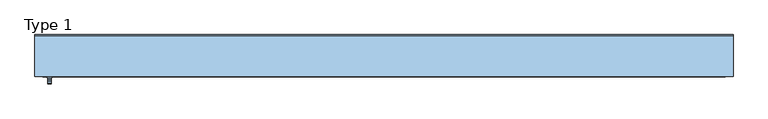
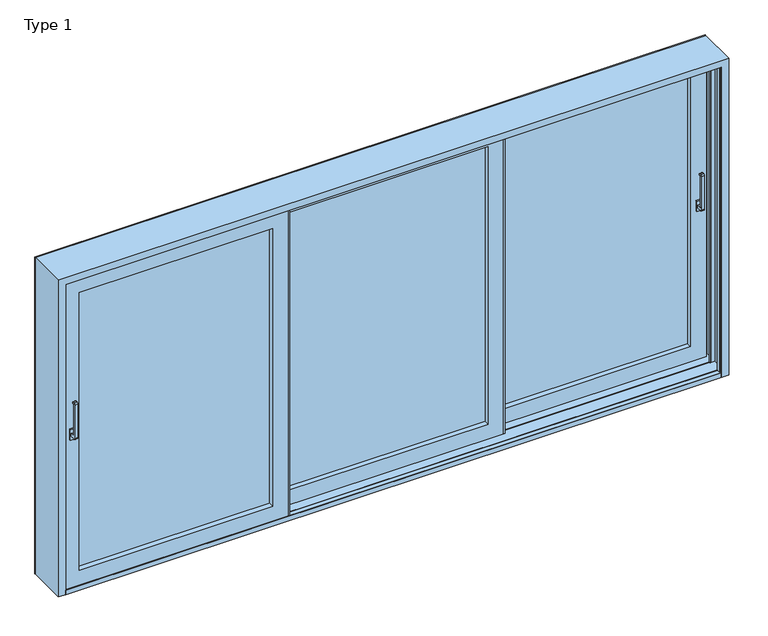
"""IFC4 building model written with IfcOpenShell, lengths in millimetres: window geometry, ETEM_ES70_Triple_Lift_Sliding_FR : Type 1."""

from ifc_helpers import new_model, si_unit, point, frame, frame_2d, origin, place, context, project, spatial, polyline, circle_curve, trimmed, segment, composite_curve, outline, extrude, faceted_brep, source, transform, mapped, element, save


def type_1_a0107564(model_context):
    return source(origin(), model_context, "Body", "SolidModel", [
        extrude(outline(composite_curve([segment(polyline([(38.5008815, 1090.0), (6.9271967, 1090.0)]), True, "CONTINUOUS"), segment(trimmed(circle_curve(frame_2d((6.9271967, 1098.4263152)), 8.4263152), [point((6.9271967, 1090.0))], [point((-1.4991185, 1098.4263152))], False, "CARTESIAN"), True, "CONTINUOUS"), segment(polyline([(-1.4991185, 1098.4263152), (-1.4991185, 1331.5736848)]), True, "CONTINUOUS"), segment(trimmed(circle_curve(frame_2d((6.9271967, 1331.5736848)), 8.4263152), [point((-1.4991185, 1331.5736848))], [point((6.9271967, 1340.0))], False, "CARTESIAN"), True, "CONTINUOUS"), segment(polyline([(6.9271967, 1340.0), (18.5008815, 1340.0)]), True, "CONTINUOUS"), segment(trimmed(circle_curve(frame_2d((18.5008815, 1335.0)), 5.0), [point((18.5008815, 1340.0))], [point((18.5008815, 1330.0))], False, "CARTESIAN"), True, "CONTINUOUS"), segment(polyline([(18.5008815, 1330.0), (12.0364154, 1330.0)]), True, "CONTINUOUS"), segment(trimmed(circle_curve(frame_2d((12.0364154, 1326.4644661)), 3.5355339), [point((12.0364154, 1330.0))], [point((8.5008815, 1326.4644661))], True, "CARTESIAN"), True, "CONTINUOUS"), segment(polyline([(8.5008815, 1326.4644661), (8.5008815, 1113.5355339)]), True, "CONTINUOUS"), segment(trimmed(circle_curve(frame_2d((12.0364154, 1113.5355339)), 3.5355339), [point((8.5008815, 1113.5355339))], [point((12.0364154, 1110.0))], True, "CARTESIAN"), True, "CONTINUOUS"), segment(polyline([(12.0364154, 1110.0), (38.5008815, 1110.0), (38.5008815, 1090.0)]), True, "CONTINUOUS")], self_intersect=False)), frame((2098.5, 0.0, 0.0), z_axis=(1.0, 0.0, 0.0), x_axis=(0.0, 1.0, 0.0)), (0.0, 0.0, 1.0), 20.0),
        extrude(outline(polyline([(2093.5, 38.5008815), (2093.5, 51.5008815), (2123.5, 51.5008815), (2123.5, 38.5008815), (2093.5, 38.5008815)])), frame((0.0, 0.0, 1065.0), z_axis=(0.0, 0.0, 1.0), x_axis=(1.0, 0.0, 0.0)), (0.0, 0.0, 1.0), 70.0),
        extrude(outline(composite_curve([segment(polyline([(-141.4991185, 1090.0), (-173.0728033, 1090.0)]), True, "CONTINUOUS"), segment(trimmed(circle_curve(frame_2d((-173.0728033, 1098.4263152)), 8.4263152), [point((-173.0728033, 1090.0))], [point((-181.4991185, 1098.4263152))], False, "CARTESIAN"), True, "CONTINUOUS"), segment(polyline([(-181.4991185, 1098.4263152), (-181.4991185, 1331.5736848)]), True, "CONTINUOUS"), segment(trimmed(circle_curve(frame_2d((-173.0728033, 1331.5736848)), 8.4263152), [point((-181.4991185, 1331.5736848))], [point((-173.0728033, 1340.0))], False, "CARTESIAN"), True, "CONTINUOUS"), segment(polyline([(-173.0728033, 1340.0), (-161.4991185, 1340.0)]), True, "CONTINUOUS"), segment(trimmed(circle_curve(frame_2d((-161.4991185, 1335.0)), 5.0), [point((-161.4991185, 1340.0))], [point((-161.4991185, 1330.0))], False, "CARTESIAN"), True, "CONTINUOUS"), segment(polyline([(-161.4991185, 1330.0), (-167.9635846, 1330.0)]), True, "CONTINUOUS"), segment(trimmed(circle_curve(frame_2d((-167.9635846, 1326.4644661)), 3.5355339), [point((-167.9635846, 1330.0))], [point((-171.4991185, 1326.4644661))], True, "CARTESIAN"), True, "CONTINUOUS"), segment(polyline([(-171.4991185, 1326.4644661), (-171.4991185, 1113.5355339)]), True, "CONTINUOUS"), segment(trimmed(circle_curve(frame_2d((-167.9635846, 1113.5355339)), 3.5355339), [point((-171.4991185, 1113.5355339))], [point((-167.9635846, 1110.0))], True, "CARTESIAN"), True, "CONTINUOUS"), segment(polyline([(-167.9635846, 1110.0), (-141.4991185, 1110.0), (-141.4991185, 1090.0)]), True, "CONTINUOUS")], self_intersect=False)), frame((-2118.5, 0.0, 0.0), z_axis=(1.0, 0.0, 0.0), x_axis=(0.0, 1.0, 0.0)), (0.0, 0.0, 1.0), 20.0),
        extrude(outline(polyline([(-2123.5, -141.4991185), (-2123.5, -128.4991185), (-2093.5, -128.4991185), (-2093.5, -141.4991185), (-2123.5, -141.4991185)])), frame((0.0, 0.0, 1065.0), z_axis=(0.0, 0.0, 1.0), x_axis=(1.0, 0.0, 0.0)), (0.0, 0.0, 1.0), 70.0),
        faceted_brep([(2200.0, 122.9, 2200.0), (2200.0, -135.0998732, 2200.0), (2200.0, -135.0998732, 0.0), (2200.0, 122.9, 0.0), (2183.7, 91.0, 2183.7), (2183.7, 122.9, 2183.7), (2183.7, 122.9, 0.0), (2183.7, 91.0, 0.0), (2160.0, 105.0, 2160.0), (2160.0, 91.0, 2160.0), (2160.0, 91.0, 0.0), (2160.0, 105.0, 0.0), (2152.0, 82.0, 2152.0), (2152.0, 105.0, 2152.0), (2152.0, 105.0, 0.0), (2152.0, 82.0, 0.0), (2183.7, -88.9998732, 2183.7), (2183.7, -7.9998732, 2183.7), (2183.7, -7.9998732, 0.0), (2183.7, -88.9998732, 0.0), (2152.0, -111.9998732, 2152.0), (2152.0, -88.9998732, 2152.0), (2152.0, -88.9998732, 0.0), (2152.0, -111.9998732, 0.0), (2160.0, -97.9998732, 2160.0), (2160.0, -111.9998732, 2160.0), (2160.0, -111.9998732, 0.0), (2160.0, -97.9998732, 0.0), (2183.7, -131.2998732, 2183.7), (2183.7, -97.9998732, 2183.7), (2183.7, -97.9998732, 0.0), (2183.7, -131.2998732, 0.0), (2152.0, -135.0998732, 2152.0), (2152.0, -131.2998732, 2152.0), (2152.0, -131.2998732, 0.0), (2152.0, -135.0998732, 0.0), (-2200.0, 122.9, 0.0), (-2200.0, -135.0998732, 0.0), (-2200.0, -135.0998732, 2200.0), (-2200.0, 122.9, 2200.0), (-2183.7, 91.0, 0.0), (-2183.7, 122.9, 0.0), (-2183.7, 122.9, 2183.7), (-2183.7, 91.0, 2183.7), (-2160.0, 105.0, 0.0), (-2160.0, 91.0, 0.0), (-2160.0, 91.0, 2160.0), (-2160.0, 105.0, 2160.0), (-2152.0, 82.0, 0.0), (-2152.0, 105.0, 0.0), (-2152.0, 105.0, 2152.0), (-2152.0, 82.0, 2152.0), (-2183.7, -88.9998732, 0.0), (-2183.7, -7.9998732, 0.0), (-2183.7, -7.9998732, 2183.7), (-2183.7, -88.9998732, 2183.7), (-2152.0, -111.9998732, 0.0), (-2152.0, -88.9998732, 0.0), (-2152.0, -88.9998732, 2152.0), (-2152.0, -111.9998732, 2152.0), (-2160.0, -97.9998732, 0.0), (-2160.0, -111.9998732, 0.0), (-2160.0, -111.9998732, 2160.0), (-2160.0, -97.9998732, 2160.0), (-2183.7, -131.2998732, 0.0), (-2183.7, -97.9998732, 0.0), (-2183.7, -97.9998732, 2183.7), (-2183.7, -131.2998732, 2183.7), (-2152.0, -135.0998732, 0.0), (-2152.0, -131.2998732, 0.0), (-2152.0, -131.2998732, 2152.0), (-2152.0, -135.0998732, 2152.0), (-2183.7, 1.0001268, 0.0), (-2183.7, 82.0, 0.0), (-2183.7, 82.0, 2183.7), (-2183.7, 1.0001268, 2183.7), (2183.7, 1.0001268, 2183.7), (2183.7, 82.0, 2183.7), (2183.7, 82.0, 0.0), (2183.7, 1.0001268, 0.0), (2157.4, 2.5001268, 2157.4), (2157.4, 1.0001268, 2157.4), (2157.4, 1.0001268, 0.0), (2157.4, 2.5001268, 0.0), (2152.0, -9.4998732, 2152.0), (2152.0, 2.5001268, 2152.0), (2152.0, 2.5001268, 0.0), (2152.0, -9.4998732, 0.0), (2157.4, -7.9998732, 2157.4), (2157.4, -9.4998732, 2157.4), (2157.4, -9.4998732, 0.0), (2157.4, -7.9998732, 0.0), (-2157.4, 2.5001268, 0.0), (-2157.4, 1.0001268, 0.0), (-2157.4, 1.0001268, 2157.4), (-2157.4, 2.5001268, 2157.4), (-2152.0, -9.4998732, 0.0), (-2152.0, 2.5001268, 0.0), (-2152.0, 2.5001268, 2152.0), (-2152.0, -9.4998732, 2152.0), (-2157.4, -7.9998732, 0.0), (-2157.4, -9.4998732, 0.0), (-2157.4, -9.4998732, 2157.4), (-2157.4, -7.9998732, 2157.4)], [[[0, 1, 2, 3]], [[4, 5, 6, 7]], [[8, 9, 10, 11]], [[12, 13, 14, 15]], [[16, 17, 18, 19]], [[20, 21, 22, 23]], [[24, 25, 26, 27]], [[28, 29, 30, 31]], [[32, 33, 34, 35]], [[36, 37, 38, 39]], [[40, 41, 42, 43]], [[44, 45, 46, 47]], [[48, 49, 50, 51]], [[52, 53, 54, 55]], [[56, 57, 58, 59]], [[60, 61, 62, 63]], [[64, 65, 66, 67]], [[68, 69, 70, 71]], [[39, 38, 1, 0]], [[43, 42, 5, 4]], [[47, 46, 9, 8]], [[51, 50, 13, 12]], [[55, 54, 17, 16]], [[59, 58, 21, 20]], [[63, 62, 25, 24]], [[67, 66, 29, 28]], [[71, 70, 33, 32]], [[72, 73, 74, 75]], [[76, 77, 78, 79]], [[80, 81, 82, 83]], [[84, 85, 86, 87]], [[88, 89, 90, 91]], [[92, 93, 94, 95]], [[96, 97, 98, 99]], [[100, 101, 102, 103]], [[75, 74, 77, 76]], [[95, 94, 81, 80]], [[99, 98, 85, 84]], [[103, 102, 89, 88]], [[68, 37, 36, 41, 40, 45, 44, 49, 48, 73, 72, 93, 92, 97, 96, 101, 100, 53, 52, 57, 56, 61, 60, 65, 64, 69]], [[37, 68, 71, 32, 35, 2, 1, 38]], [[41, 36, 39, 0, 3, 6, 5, 42]], [[45, 40, 43, 4, 7, 10, 9, 46]], [[49, 44, 47, 8, 11, 14, 13, 50]], [[73, 48, 51, 12, 15, 78, 77, 74]], [[93, 72, 75, 76, 79, 82, 81, 94]], [[97, 92, 95, 80, 83, 86, 85, 98]], [[101, 96, 99, 84, 87, 90, 89, 102]], [[53, 100, 103, 88, 91, 18, 17, 54]], [[57, 52, 55, 16, 19, 22, 21, 58]], [[61, 56, 59, 20, 23, 26, 25, 62]], [[65, 60, 63, 24, 27, 30, 29, 66]], [[69, 64, 67, 28, 31, 34, 33, 70]], [[35, 34, 31, 30, 27, 26, 23, 22, 19, 18, 91, 90, 87, 86, 83, 82, 79, 78, 15, 14, 11, 10, 7, 6, 3, 2]]]),
        faceted_brep([(789.8333333, 121.5, 2058.0), (789.8333333, 51.5, 2058.0), (789.8333333, 51.5, 132.9999988), (789.8333333, 121.5, 132.9999988), (686.8333333, 51.5, 29.9999988), (2161.0, 51.5, 29.9999988), (2161.0, 51.5, 2161.0), (686.8333333, 51.5, 2161.0), (2058.0, 51.5, 2058.0), (2058.0, 51.5, 132.9999988), (2058.0, 121.5, 132.9999988), (686.8333333, 121.5, 2161.0), (2161.0, 121.5, 2161.0), (2161.0, 121.5, 29.9999988), (686.8333333, 121.5, 29.9999988), (2058.0, 121.5, 2058.0), (686.8333333, 109.1, 2161.0), (686.8333333, 109.1, 29.9999988), (2161.0, 109.1, 29.9999988), (2161.0, 109.1, 2161.0), (717.9333333, 109.1, 2129.9), (2129.9, 109.1, 2129.9), (2129.9, 109.1, 61.0999988), (717.9333333, 109.1, 61.0999988), (717.9333333, 63.9, 2129.9), (717.9333333, 63.9, 61.0999988), (2129.9, 63.9, 61.0999988), (686.8333333, 63.9, 2161.0), (2161.0, 63.9, 2161.0), (2161.0, 63.9, 29.9999988), (686.8333333, 63.9, 29.9999988), (2129.9, 63.9, 2129.9)], [[[0, 1, 2, 3]], [[4, 5, 6, 7], [1, 8, 9, 2]], [[3, 2, 9, 10]], [[11, 12, 13, 14], [3, 10, 15, 0]], [[16, 11, 14, 17]], [[17, 14, 13, 18]], [[17, 18, 19, 16], [20, 21, 22, 23]], [[24, 20, 23, 25]], [[25, 23, 22, 26]], [[27, 28, 29, 30], [25, 26, 31, 24]], [[7, 27, 30, 4]], [[4, 30, 29, 5]], [[10, 9, 8, 15]], [[18, 13, 12, 19]], [[26, 22, 21, 31]], [[5, 29, 28, 6]], [[15, 8, 1, 0]], [[19, 12, 11, 16]], [[31, 21, 20, 24]], [[6, 28, 27, 7]]]),
        extrude(outline(polyline([(789.8333333, -37.5499366), (779.8333333, -37.5499366), (779.8333333, 44.2500634), (789.8333333, 44.2500634), (789.8333333, -37.5499366)])), frame((0.0, 0.0, 29.9999988), z_axis=(0.0, 0.0, 1.0), x_axis=(1.0, 0.0, 0.0)), (0.0, 0.0, 1.0), 2131.0000012),
        extrude(outline(polyline([(676.8333333, 121.5), (686.8333333, 121.5), (686.8333333, 39.7), (676.8333333, 39.7), (676.8333333, 121.5)])), frame((0.0, 0.0, 29.9999988), z_axis=(0.0, 0.0, 1.0), x_axis=(1.0, 0.0, 0.0)), (0.0, 0.0, 1.0), 2131.0000012),
        extrude(outline(polyline([(789.8333333, 113.5022684), (2058.0, 113.5022684), (2058.0, 107.5022684), (789.8333333, 107.5022684), (789.8333333, 113.5022684)])), frame((0.0, 0.0, 132.9999988), z_axis=(0.0, 0.0, 1.0), x_axis=(1.0, 0.0, 0.0)), (0.0, 0.0, 1.0), 1925.0000012),
        extrude(outline(polyline([(-676.8333333, 23.5008859), (676.8333333, 23.5008859), (676.8333333, 17.5008859), (-676.8333333, 17.5008859), (-676.8333333, 23.5008859)])), frame((0.0, 0.0, 132.9749987), z_axis=(0.0, 0.0, 1.0), x_axis=(1.0, 0.0, 0.0)), (0.0, 0.0, 1.0), 1925.0500014),
        extrude(outline(polyline([(789.8333333, 91.5022684), (2058.0, 91.5022684), (2058.0, 85.5022684), (789.8333333, 85.5022684), (789.8333333, 91.5022684)])), frame((0.0, 0.0, 132.9999988), z_axis=(0.0, 0.0, 1.0), x_axis=(1.0, 0.0, 0.0)), (0.0, 0.0, 1.0), 1925.0000012),
        extrude(outline(polyline([(-676.8333333, 1.5008859), (676.8333333, 1.5008859), (676.8333333, -4.4991141), (-676.8333333, -4.4991141), (-676.8333333, 1.5008859)])), frame((0.0, 0.0, 132.9749987), z_axis=(0.0, 0.0, 1.0), x_axis=(1.0, 0.0, 0.0)), (0.0, 0.0, 1.0), 1925.0500014),
        faceted_brep([(-686.8333333, -116.0991185, 2161.0), (-686.8333333, -128.4991185, 2161.0), (-686.8333333, -128.4991185, 29.9999988), (-686.8333333, -116.0991185, 29.9999988), (-2161.0, -128.4991185, 29.9999988), (-2161.0, -116.0991185, 29.9999988), (-2161.0, -128.4991185, 2161.0), (-2058.0250001, -128.4991185, 132.9749987), (-2058.0250001, -128.4991185, 2058.0250001), (-789.8083332, -128.4991185, 2058.0250001), (-789.8083332, -128.4991185, 132.9749987), (-2161.0, -116.0991185, 2161.0), (-717.9083332, -116.0991185, 61.0749987), (-717.9083332, -116.0991185, 2129.9250001), (-2129.9250001, -116.0991185, 2129.9250001), (-2129.9250001, -116.0991185, 61.0749987), (-717.9083332, -70.8991185, 2129.9250001), (-717.9083332, -70.8991185, 61.0749987), (-2129.9250001, -70.8991185, 61.0749987), (-2129.9250001, -70.8991185, 2129.9250001), (-686.8333333, -70.8991185, 29.9999988), (-686.8333333, -70.8991185, 2161.0), (-2161.0, -70.8991185, 2161.0), (-2161.0, -70.8991185, 29.9999988), (-686.8333333, -58.4991185, 2161.0), (-686.8333333, -58.4991185, 29.9999988), (-2161.0, -58.4991185, 29.9999988), (-2161.0, -58.4991185, 2161.0), (-789.8083332, -58.4991185, 132.9749987), (-789.8083332, -58.4991185, 2058.0250001), (-2058.0250001, -58.4991185, 2058.0250001), (-2058.0250001, -58.4991185, 132.9749987)], [[[0, 1, 2, 3]], [[3, 2, 4, 5]], [[2, 1, 6, 4], [7, 8, 9, 10]], [[5, 4, 6, 11]], [[5, 11, 0, 3], [12, 13, 14, 15]], [[16, 13, 12, 17]], [[17, 12, 15, 18]], [[18, 15, 14, 19]], [[20, 21, 22, 23], [18, 19, 16, 17]], [[24, 21, 20, 25]], [[25, 20, 23, 26]], [[26, 23, 22, 27]], [[26, 27, 24, 25], [28, 29, 30, 31]], [[9, 29, 28, 10]], [[10, 28, 31, 7]], [[7, 31, 30, 8]], [[11, 6, 1, 0]], [[19, 14, 13, 16]], [[27, 22, 21, 24]], [[8, 30, 29, 9]]]),
        extrude(outline(polyline([(-676.8333333, -46.6991185), (-676.8333333, -128.4991185), (-686.8333333, -128.4991185), (-686.8333333, -46.6991185), (-676.8333333, -46.6991185)])), frame((0.0, 0.0, 29.9999988), z_axis=(0.0, 0.0, 1.0), x_axis=(1.0, 0.0, 0.0)), (0.0, 0.0, 1.0), 2131.0000012),
        extrude(outline(polyline([(-789.7333333, -49.3499366), (-789.7333333, 32.4500634), (-779.8333333, 32.4500634), (-779.8333333, -49.3499366), (-789.7333333, -49.3499366)])), frame((0.0, 0.0, 29.9999988), z_axis=(0.0, 0.0, 1.0), x_axis=(1.0, 0.0, 0.0)), (0.0, 0.0, 1.0), 2131.0000012),
        extrude(outline(polyline([(-2058.0, -66.4991141), (-789.8333333, -66.4991141), (-789.8333333, -72.4991141), (-2058.0, -72.4991141), (-2058.0, -66.4991141)])), frame((0.0, 0.0, 132.9749987), z_axis=(0.0, 0.0, 1.0), x_axis=(1.0, 0.0, 0.0)), (0.0, 0.0, 1.0), 1925.0500014),
        extrude(outline(polyline([(-2058.0, -88.4991141), (-789.8333333, -88.4991141), (-789.8333333, -94.4991141), (-2058.0, -94.4991141), (-2058.0, -88.4991141)])), frame((0.0, 0.0, 132.9749987), z_axis=(0.0, 0.0, 1.0), x_axis=(1.0, 0.0, 0.0)), (0.0, 0.0, 1.0), 1925.0500014),
        extrude(outline(polyline([(0.0, -2200.0), (0.0, -2152.0), (2152.0, -2152.0), (2152.0, 2152.0), (0.0, 2152.0), (0.0, 2200.0), (2200.0, 2200.0), (2200.0, -2200.0), (0.0, -2200.0)])), frame((0.0, 122.9, 0.0), z_axis=(0.0, 1.0, 0.0), x_axis=(0.0, 0.0, 1.0)), (0.0, 0.0, 1.0), 7.1),
        faceted_brep([(779.8333333, -25.1499366, 2161.0), (779.8333333, -37.5499366, 2161.0), (779.8333333, -37.5499366, 29.9999988), (779.8333333, -25.1499366, 29.9999988), (-779.8333333, -37.5499366, 29.9999988), (-779.8333333, -25.1499366, 29.9999988), (-779.8333333, -37.5499366, 2161.0), (-676.8583334, -37.5499366, 132.9749987), (-676.8583334, -37.5499366, 2058.0250001), (676.8583334, -37.5499366, 2058.0250001), (676.8583334, -37.5499366, 132.9749987), (-779.8333333, -25.1499366, 2161.0), (748.7583334, -25.1499366, 61.0749987), (748.7583334, -25.1499366, 2129.9250001), (-748.7583334, -25.1499366, 2129.9250001), (-748.7583334, -25.1499366, 61.0749987), (748.7583334, 20.0500634, 2129.9250001), (748.7583334, 20.0500634, 61.0749987), (-748.7583334, 20.0500634, 61.0749987), (-748.7583334, 20.0500634, 2129.9250001), (779.8333333, 20.0500634, 29.9999988), (779.8333333, 20.0500634, 2161.0), (-779.8333333, 20.0500634, 2161.0), (-779.8333333, 20.0500634, 29.9999988), (779.8333333, 32.4500634, 2161.0), (779.8333333, 32.4500634, 29.9999988), (-779.8333333, 32.4500634, 29.9999988), (-779.8333333, 32.4500634, 2161.0), (676.8583334, 32.4500634, 132.9749987), (676.8583334, 32.4500634, 2058.0250001), (-676.8583334, 32.4500634, 2058.0250001), (-676.8583334, 32.4500634, 132.9749987)], [[[0, 1, 2, 3]], [[3, 2, 4, 5]], [[2, 1, 6, 4], [7, 8, 9, 10]], [[5, 4, 6, 11]], [[5, 11, 0, 3], [12, 13, 14, 15]], [[16, 13, 12, 17]], [[17, 12, 15, 18]], [[18, 15, 14, 19]], [[20, 21, 22, 23], [18, 19, 16, 17]], [[24, 21, 20, 25]], [[25, 20, 23, 26]], [[26, 23, 22, 27]], [[26, 27, 24, 25], [28, 29, 30, 31]], [[9, 29, 28, 10]], [[10, 28, 31, 7]], [[7, 31, 30, 8]], [[11, 6, 1, 0]], [[19, 14, 13, 16]], [[27, 22, 21, 24]], [[8, 30, 29, 9]]]),
        faceted_brep([(-2152.0, -135.1087885, 0.0), (2152.0, -135.1087885, 0.0), (2152.0, -135.1087885, 30.0), (-2152.0, -135.1087885, 30.0), (2152.0, -131.1087885, 30.0), (-2152.0, -131.1087885, 30.0), (2152.0, -131.1087885, 25.0), (-2152.0, -131.1087885, 25.0), (2183.7, -131.1087885, 25.0), (2183.7, -97.9998732, 25.0), (2160.0, -97.9998732, 25.0), (2160.0, -111.9998732, 25.0), (2152.0, -111.9998732, 25.0), (2152.0, -95.9144708, 25.0), (-2152.0, -95.9144708, 25.0), (-2152.0, -111.9998732, 25.0), (-2160.0, -111.9998732, 25.0), (-2160.0, -97.9998732, 25.0), (-2183.7, -97.9998732, 25.0), (-2183.7, -131.1087885, 25.0), (2152.0, -95.9144708, 21.0), (-2152.0, -95.9144708, 21.0), (2152.0, -91.1144708, 21.0), (-2152.0, -91.1144708, 21.0), (2152.0, -91.1144708, 25.0), (-2152.0, -91.1144708, 25.0), (2152.0, -88.9998732, 25.0), (2183.7, -88.9998732, 25.0), (2183.7, -7.9998732, 25.0), (2157.4, -7.9998732, 25.0), (2157.4, -9.4998732, 25.0), (2152.0, -9.4998732, 25.0), (2152.0, -5.9144708, 25.0), (-2152.0, -5.9144708, 25.0), (-2152.0, -9.4998732, 25.0), (-2157.4, -9.4998732, 25.0), (-2157.4, -7.9998732, 25.0), (-2183.7, -7.9998732, 25.0), (-2183.7, -88.9998732, 25.0), (-2152.0, -88.9998732, 25.0), (2152.0, -5.9144708, 21.0), (-2152.0, -5.9144708, 21.0), (2152.0, -1.1144708, 21.0), (-2152.0, -1.1144708, 21.0), (2152.0, -1.1144708, 25.0), (-2152.0, -1.1144708, 25.0), (2152.0, 2.5001268, 25.0), (2157.4, 2.5001268, 25.0), (2157.4, 1.0001268, 25.0), (2183.7, 1.0001268, 25.0), (2183.7, 82.0, 25.0), (2152.0, 82.0, 25.0), (2152.0, 83.9855292, 25.0), (-2152.0, 83.9855292, 25.0), (-2152.0, 82.0, 25.0), (-2183.7, 82.0, 25.0), (-2183.7, 1.0001268, 25.0), (-2157.4, 1.0001268, 25.0), (-2157.4, 2.5001268, 25.0), (-2152.0, 2.5001268, 25.0), (2152.0, 83.9855292, 21.0), (-2152.0, 83.9855292, 21.0), (2152.0, 88.7855292, 21.0), (-2152.0, 88.7855292, 21.0), (2152.0, 88.7855292, 25.0), (-2152.0, 88.7855292, 25.0), (2152.0, 105.0, 25.0), (2160.0, 105.0, 25.0), (2160.0, 91.0, 25.0), (2183.7, 91.0, 25.0), (2183.7, 121.7912115, 25.0), (-2183.7, 121.7912115, 25.0), (-2183.7, 91.0, 25.0), (-2160.0, 91.0, 25.0), (-2160.0, 105.0, 25.0), (-2152.0, 105.0, 25.0), (2183.7, 121.7912115, 0.0), (-2183.7, 121.7912115, 0.0), (-2152.0, -131.1087885, 0.0), (-2183.7, -131.1087885, 0.0), (-2183.7, -97.9998732, 0.0), (-2160.0, -97.9998732, 0.0), (-2160.0, -111.9998732, 0.0), (-2152.0, -111.9998732, 0.0), (-2152.0, -88.9998732, 0.0), (-2183.7, -88.9998732, 0.0), (-2183.7, -7.9998732, 0.0), (-2157.4, -7.9998732, 0.0), (-2157.4, -9.4998732, 0.0), (-2152.0, -9.4998732, 0.0), (-2152.0, 2.5001268, 0.0), (-2157.4, 2.5001268, 0.0), (-2157.4, 1.0001268, 0.0), (-2183.7, 1.0001268, 0.0), (-2183.7, 82.0, 0.0), (-2152.0, 82.0, 0.0), (-2152.0, 105.0, 0.0), (-2160.0, 105.0, 0.0), (-2160.0, 91.0, 0.0), (-2183.7, 91.0, 0.0), (2183.7, 91.0, 0.0), (2160.0, 91.0, 0.0), (2160.0, 105.0, 0.0), (2152.0, 105.0, 0.0), (2152.0, 82.0, 0.0), (2183.7, 82.0, 0.0), (2183.7, 1.0001268, 0.0), (2157.4, 1.0001268, 0.0), (2157.4, 2.5001268, 0.0), (2152.0, 2.5001268, 0.0), (2152.0, -9.4998732, 0.0), (2157.4, -9.4998732, 0.0), (2157.4, -7.9998732, 0.0), (2183.7, -7.9998732, 0.0), (2183.7, -88.9998732, 0.0), (2152.0, -88.9998732, 0.0), (2152.0, -111.9998732, 0.0), (2160.0, -111.9998732, 0.0), (2160.0, -97.9998732, 0.0), (2183.7, -97.9998732, 0.0), (2183.7, -131.1087885, 0.0), (2152.0, -131.1087885, 0.0)], [[[0, 1, 2, 3]], [[3, 2, 4, 5]], [[5, 4, 6, 7]], [[7, 6, 8, 9, 10, 11, 12, 13, 14, 15, 16, 17, 18, 19]], [[14, 13, 20, 21]], [[21, 20, 22, 23]], [[23, 22, 24, 25]], [[25, 24, 26, 27, 28, 29, 30, 31, 32, 33, 34, 35, 36, 37, 38, 39]], [[33, 32, 40, 41]], [[41, 40, 42, 43]], [[43, 42, 44, 45]], [[45, 44, 46, 47, 48, 49, 50, 51, 52, 53, 54, 55, 56, 57, 58, 59]], [[53, 52, 60, 61]], [[61, 60, 62, 63]], [[63, 62, 64, 65]], [[65, 64, 66, 67, 68, 69, 70, 71, 72, 73, 74, 75]], [[71, 70, 76, 77]], [[1, 0, 78, 79, 80, 81, 82, 83, 84, 85, 86, 87, 88, 89, 90, 91, 92, 93, 94, 95, 96, 97, 98, 99, 77, 76, 100, 101, 102, 103, 104, 105, 106, 107, 108, 109, 110, 111, 112, 113, 114, 115, 116, 117, 118, 119, 120, 121]], [[7, 78, 0, 3, 5]], [[78, 7, 19, 79]], [[79, 19, 18, 80]], [[80, 18, 17, 81]], [[81, 17, 16, 82]], [[82, 16, 15, 83]], [[83, 15, 14, 21, 23, 25, 39, 84]], [[84, 39, 38, 85]], [[85, 38, 37, 86]], [[86, 37, 36, 87]], [[87, 36, 35, 88]], [[88, 35, 34, 89]], [[89, 34, 33, 41, 43, 45, 59, 90]], [[90, 59, 58, 91]], [[91, 58, 57, 92]], [[92, 57, 56, 93]], [[93, 56, 55, 94]], [[94, 55, 54, 95]], [[95, 54, 53, 61, 63, 65, 75, 96]], [[96, 75, 74, 97]], [[97, 74, 73, 98]], [[98, 73, 72, 99]], [[99, 72, 71, 77]], [[69, 100, 76, 70]], [[100, 69, 68, 101]], [[101, 68, 67, 102]], [[102, 67, 66, 103]], [[103, 66, 64, 62, 60, 52, 51, 104]], [[104, 51, 50, 105]], [[105, 50, 49, 106]], [[106, 49, 48, 107]], [[107, 48, 47, 108]], [[108, 47, 46, 109]], [[109, 46, 44, 42, 40, 32, 31, 110]], [[110, 31, 30, 111]], [[111, 30, 29, 112]], [[112, 29, 28, 113]], [[113, 28, 27, 114]], [[114, 27, 26, 115]], [[115, 26, 24, 22, 20, 13, 12, 116]], [[116, 12, 11, 117]], [[117, 11, 10, 118]], [[118, 10, 9, 119]], [[8, 120, 119, 9]], [[120, 8, 6, 121]], [[121, 6, 4, 2, 1]]]),
    ])


if __name__ == "__main__":
    model = new_model("IFC4")
    model_context = context("Model", 3, world=origin())
    ifc_project = project(units=[si_unit("LENGTHUNIT", "METRE", prefix="MILLI")], contexts=[model_context])
    site = spatial("IfcSite", under=ifc_project)
    building = spatial("IfcBuilding", under=site)
    placement = place(None, origin())
    type_1_shape = type_1_a0107564(model_context)
    element("IfcWindow", 1, ObjectType="ETEM_ES70_Triple_Lift_Sliding_FR : Type 1", at=placement, inside=building, context=model_context, shape_type="MappedRepresentation", body=[
        mapped(type_1_shape, transform((0.0, 0.0, 0.0), x_axis=(1.0, 0.0, 0.0), y_axis=(0.0, 1.0, 0.0), z_axis=(0.0, 0.0, 1.0))),
    ])
    save(model, "model.ifc")
